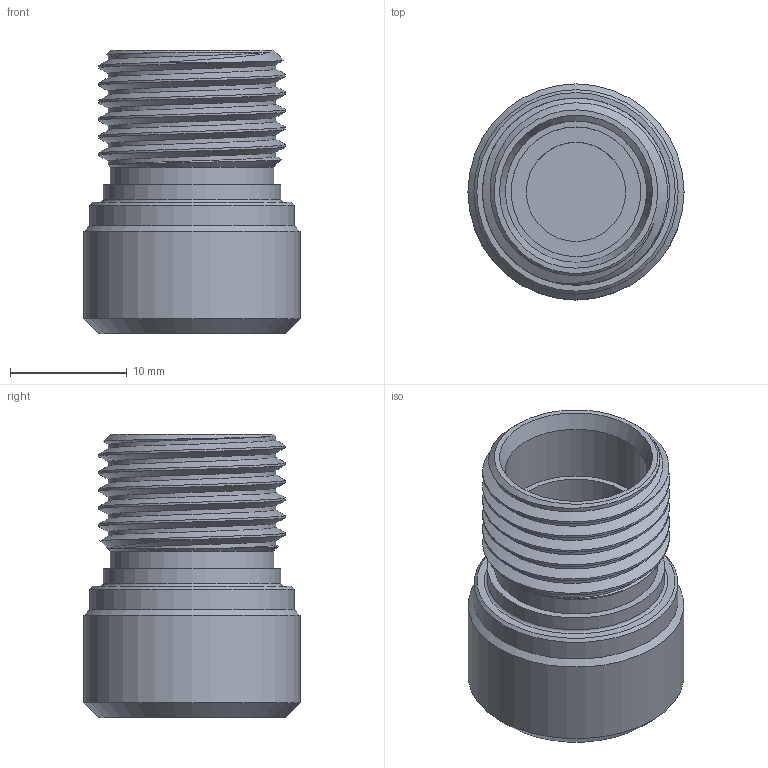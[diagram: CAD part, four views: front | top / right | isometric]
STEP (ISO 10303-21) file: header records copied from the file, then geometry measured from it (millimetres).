
FILE_DESCRIPTION (( 'STEP AP203' ), '1' );
FILE_NAME ('COB-1003.STEP', '2020-11-18T14:17:15', ( '' ), ( '' ), 'SwSTEP 2.0', 'SolidWorks 2020', '' );
FILE_SCHEMA (( 'CONFIG_CONTROL_DESIGN' ));
Length unit declared in the file: millimetre
Products named in the file (1): COB-1003
Bounding box: 18.5 x 18.5 x 24.25 mm (x, y, z)
Volume: 3261.1 mm3; surface area: 2657.7 mm2
Topology: 1 solids, 1 shells, 25 faces, 47 edges, 29 vertices
Faces by surface type: cylinder 8, plane 7, cone 6, bspline 3, torus 1
Full cylindrical faces by diameter (mm): 8.5 x1, 11.1 x1, 12.1 x1, 14 x1, 15.2 x1, 17.5 x1, 18.5 x1
Entity records: 3289 total; most frequent: CARTESIAN_POINT 2793, DIRECTION 88, ORIENTED_EDGE 62, EDGE_LOOP 44, AXIS2_PLACEMENT_3D 44, FACE_OUTER_BOUND 33, EDGE_CURVE 31, VERTEX_POINT 27
